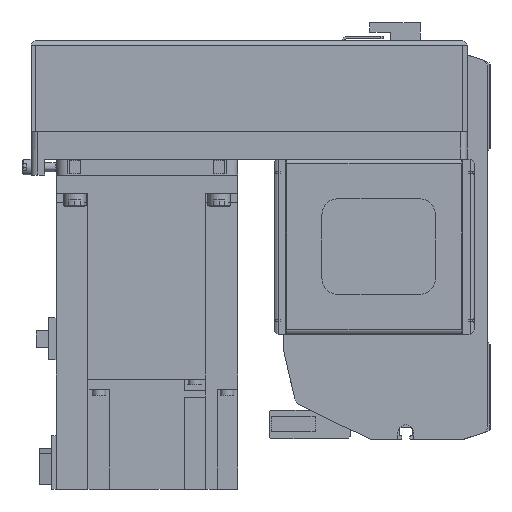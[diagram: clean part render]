
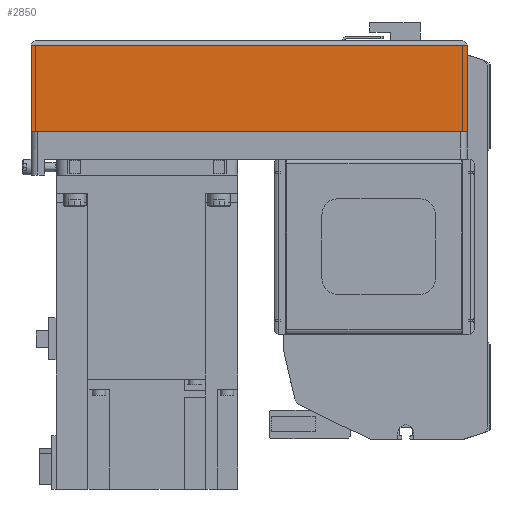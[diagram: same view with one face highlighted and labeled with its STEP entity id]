
A CAD part, left-side view. The second image highlights one B-rep face of the part: STEP entity #2850.
In plain terms, the highlighted planar face has unit normal (-1, 0, 0) as drawn and (0, 1, 0) by its records, which use the part's own axes.
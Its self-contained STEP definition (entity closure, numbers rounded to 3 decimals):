
#2850 = ADVANCED_FACE( '', ( #6124 ), #6125, .T. );
#6124 = FACE_OUTER_BOUND( '', #9742, .T. );
#6125 = PLANE( '', #9743 );
#9742 = EDGE_LOOP( '', ( #17638, #17639, #17640, #17641 ) );
#9743 = AXIS2_PLACEMENT_3D( '', #17642, #17643, #17644 );
#17638 = ORIENTED_EDGE( '', *, *, #23056, .F. );
#17639 = ORIENTED_EDGE( '', *, *, #23287, .F. );
#17640 = ORIENTED_EDGE( '', *, *, #21811, .T. );
#17641 = ORIENTED_EDGE( '', *, *, #23524, .T. );
#17642 = CARTESIAN_POINT( '', ( -192., 40., -50. ) );
#17643 = DIRECTION( '', ( 0., 1., 0. ) );
#17644 = DIRECTION( '', ( 0., 0., 1. ) );
#21811 = EDGE_CURVE( '', #25460, #26590, #26592, .T. );
#23056 = EDGE_CURVE( '', #28295, #28404, #28405, .T. );
#23287 = EDGE_CURVE( '', #25460, #28295, #28710, .T. );
#23524 = EDGE_CURVE( '', #26590, #28404, #29011, .T. );
#25460 = VERTEX_POINT( '', #31718 );
#26590 = VERTEX_POINT( '', #33421 );
#26592 = LINE( '', #33424, #33425 );
#28295 = VERTEX_POINT( '', #35947 );
#28404 = VERTEX_POINT( '', #36120 );
#28405 = LINE( '', #36121, #36122 );
#28710 = LINE( '', #36717, #36718 );
#29011 = LINE( '', #37197, #37198 );
#31718 = CARTESIAN_POINT( '', ( -192., 40., -50. ) );
#33421 = CARTESIAN_POINT( '', ( -192., 40., -12.1 ) );
#33424 = CARTESIAN_POINT( '', ( -192., 40., -50. ) );
#33425 = VECTOR( '', #40040, 1000. );
#35947 = CARTESIAN_POINT( '', ( 0., 40., -50. ) );
#36120 = CARTESIAN_POINT( '', ( 0., 40., -12.1 ) );
#36121 = CARTESIAN_POINT( '', ( 0., 40., -50. ) );
#36122 = VECTOR( '', #41554, 1000. );
#36717 = CARTESIAN_POINT( '', ( -192., 40., -50. ) );
#36718 = VECTOR( '', #41779, 1000. );
#37197 = CARTESIAN_POINT( '', ( -192., 40., -12.1 ) );
#37198 = VECTOR( '', #42015, 1000. );
#40040 = DIRECTION( '', ( 0., 0., 1. ) );
#41554 = DIRECTION( '', ( 0., 0., 1. ) );
#41779 = DIRECTION( '', ( 1., 0., 0. ) );
#42015 = DIRECTION( '', ( 1., 0., 0. ) );
